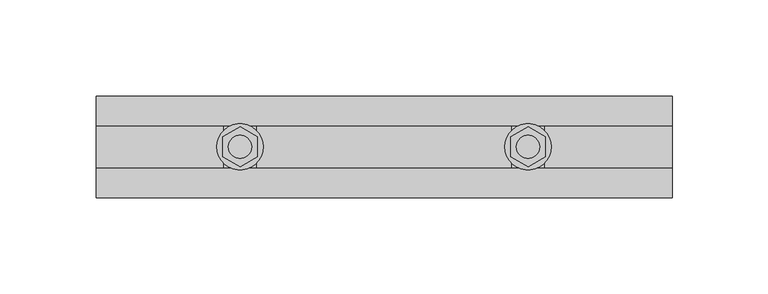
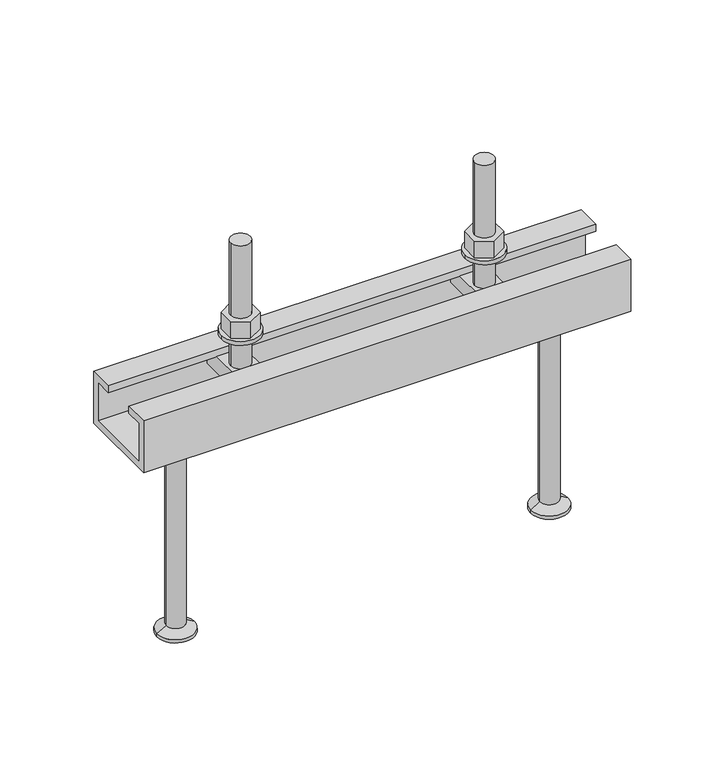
"""IFC4 building model written with IfcOpenShell, lengths in millimetres: fastener geometry, JTA-K JORDAHL® AnchorChannels : JTA-K L=300 mm."""

from ifc_helpers import new_model, si_unit, point, frame, frame_2d, origin, place, context, project, spatial, polyline, circle_curve, trimmed, segment, composite_curve, outline, extrude, source, transform, mapped, element, save
from ifc_brep_helpers import plane_surface, cylinder_surface, revolved_surface, advanced_brep


def fastener_9a6c4959(model_context):
    return source(origin(), model_context, "Body", "SolidModel", [
        extrude(outline(polyline([(225.0, -10.3923048), (216.0, -5.1961524), (216.0, 5.1961524), (225.0, 10.3923048), (234.0, 5.1961524), (234.0, -5.1961524), (225.0, -10.3923048)]), holes=[composite_curve([segment(trimmed(circle_curve(frame_2d((225.0, 0.0)), 6.0), [point((219.0, 0.0))], [point((231.0, 0.0))], True, "CARTESIAN"), True, "CONTINUOUS"), segment(trimmed(circle_curve(frame_2d((225.0, 0.0)), 6.0), [point((231.0, 0.0))], [point((219.0, 0.0))], True, "CARTESIAN"), True, "CONTINUOUS")], self_intersect=False)]), frame((0.0, 0.0, 17.5), z_axis=(0.0, 0.0, 1.0), x_axis=(1.0, 0.0, 0.0)), (0.0, 0.0, 1.0), 10.8),
        extrude(outline(composite_curve([segment(trimmed(circle_curve(frame_2d((225.0, 0.0)), 12.0), [point((213.0, 0.0))], [point((237.0, 0.0))], False, "CARTESIAN"), True, "CONTINUOUS"), segment(trimmed(circle_curve(frame_2d((225.0, 0.0)), 12.0), [point((237.0, 0.0))], [point((213.0, 0.0))], False, "CARTESIAN"), True, "CONTINUOUS")], self_intersect=False), holes=[composite_curve([segment(trimmed(circle_curve(frame_2d((225.0, 0.0)), 6.5), [point((218.5, 0.0))], [point((231.5, 0.0))], True, "CARTESIAN"), True, "CONTINUOUS"), segment(trimmed(circle_curve(frame_2d((225.0, 0.0)), 6.5), [point((231.5, 0.0))], [point((218.5, 0.0))], True, "CARTESIAN"), True, "CONTINUOUS")], self_intersect=False)]), frame((0.0, 0.0, 15.0), z_axis=(0.0, 0.0, 1.0), x_axis=(1.0, 0.0, 0.0)), (0.0, 0.0, 1.0), 2.5),
        extrude(outline(polyline([(75.0, -10.3923048), (66.0, -5.1961524), (66.0, 5.1961524), (75.0, 10.3923048), (84.0, 5.1961524), (84.0, -5.1961524), (75.0, -10.3923048)]), holes=[composite_curve([segment(trimmed(circle_curve(frame_2d((75.0, 0.0)), 6.0), [point((69.0, 0.0))], [point((81.0, 0.0))], True, "CARTESIAN"), True, "CONTINUOUS"), segment(trimmed(circle_curve(frame_2d((75.0, 0.0)), 6.0), [point((81.0, 0.0))], [point((69.0, 0.0))], True, "CARTESIAN"), True, "CONTINUOUS")], self_intersect=False)]), frame((0.0, 0.0, 17.5), z_axis=(0.0, 0.0, 1.0), x_axis=(1.0, 0.0, 0.0)), (0.0, 0.0, 1.0), 10.8),
        extrude(outline(composite_curve([segment(trimmed(circle_curve(frame_2d((75.0, 0.0)), 12.0), [point((63.0, 0.0))], [point((87.0, 0.0))], False, "CARTESIAN"), True, "CONTINUOUS"), segment(trimmed(circle_curve(frame_2d((75.0, 0.0)), 12.0), [point((87.0, 0.0))], [point((63.0, 0.0))], False, "CARTESIAN"), True, "CONTINUOUS")], self_intersect=False), holes=[composite_curve([segment(trimmed(circle_curve(frame_2d((75.0, 0.0)), 6.5), [point((68.5, 0.0))], [point((81.5, 0.0))], True, "CARTESIAN"), True, "CONTINUOUS"), segment(trimmed(circle_curve(frame_2d((75.0, 0.0)), 6.5), [point((81.5, 0.0))], [point((68.5, 0.0))], True, "CARTESIAN"), True, "CONTINUOUS")], self_intersect=False)]), frame((0.0, 0.0, 15.0), z_axis=(0.0, 0.0, 1.0), x_axis=(1.0, 0.0, 0.0)), (0.0, 0.0, 1.0), 2.5),
        advanced_brep(
        [(233.5, -20.7, -4.5), (233.5, -20.7, -14.5), (233.5, 20.7, -14.5), (233.5, 20.7, -4.5), (216.5, -20.7, -4.5), (216.5, 20.7, -4.5), (216.5, 20.7, -14.5), (216.5, -20.7, -14.5), (231.0, 0.0, -4.5), (219.0, 0.0, -4.5), (219.0, 0.0, 75.5), (231.0, 0.0, 75.5)],
        [
            (0, 1),
            (1, 2),
            (2, 3),
            (3, 0),
            (4, 5),
            (5, 6),
            (6, 7),
            (7, 4),
            (3, 5),
            (4, 0),
            (8, 9, circle_curve(frame((225.0, 0.0, -4.5), z_axis=(0.0, 0.0, -1.0), x_axis=(1.0, 0.0, 0.0)), 6.0)),
            (9, 8, circle_curve(frame((225.0, 0.0, -4.5), z_axis=(0.0, 0.0, -1.0), x_axis=(1.0, 0.0, 0.0)), 6.0)),
            (2, 6),
            (1, 7),
            (10, 11, circle_curve(frame((225.0, 0.0, 75.5), z_axis=(0.0, 0.0, 1.0), x_axis=(1.0, 0.0, 0.0)), 6.0)),
            (11, 10, circle_curve(frame((225.0, 0.0, 75.5), z_axis=(0.0, 0.0, 1.0), x_axis=(1.0, 0.0, 0.0)), 6.0)),
            (11, 8),
            (9, 10),
        ],
        [
            plane_surface(frame((233.5, 20.7, -4.5), z_axis=(1.0, 0.0, 0.0), x_axis=(0.0, 1.0, 0.0))),
            plane_surface(frame((216.5, 20.7, -4.5), z_axis=(-1.0, 0.0, 0.0), x_axis=(0.0, -1.0, 0.0))),
            plane_surface(frame((233.5, -20.7, -4.5), z_axis=(0.0, 0.0, 1.0), x_axis=(-1.0, 0.0, 0.0))),
            plane_surface(frame((233.5, 20.7, -4.5), z_axis=(0.0, 1.0, 0.0), x_axis=(-1.0, 0.0, 0.0))),
            plane_surface(frame((233.5, 20.7, -14.5), z_axis=(0.0, 0.0, -1.0), x_axis=(-1.0, 0.0, 0.0))),
            plane_surface(frame((233.5, -20.7, -14.5), z_axis=(0.0, -1.0, 0.0), x_axis=(-1.0, 0.0, 0.0))),
            plane_surface(frame((231.0, 0.0, 75.5), z_axis=(0.0, 0.0, 1.0), x_axis=(0.0, -1.0, 0.0))),
            cylinder_surface(frame((225.0, 0.0, -4.5), z_axis=(0.0, 0.0, 1.0), x_axis=(1.0, 0.0, 0.0)), 6.0),
        ],
        [
            (0, [[1, 2, 3, 4]]),
            (1, [[5, 6, 7, 8]]),
            (2, [[9, -5, 10, -4], [11, 12]]),
            (3, [[13, -6, -9, -3]]),
            (4, [[14, -7, -13, -2]]),
            (5, [[-10, -8, -14, -1]]),
            (6, [[15, 16]]),
            (7, [[17, -12, 18, -16]]),
            (7, [[-18, -11, -17, -15]]),
        ],
    ),
        advanced_brep(
        [(83.5, -20.7, -4.5), (83.5, -20.7, -14.5), (83.5, 20.7, -14.5), (83.5, 20.7, -4.5), (66.5, -20.7, -4.5), (66.5, 20.7, -4.5), (66.5, 20.7, -14.5), (66.5, -20.7, -14.5), (81.0, 0.0, -4.5), (69.0, 0.0, -4.5), (69.0, 0.0, 75.5), (81.0, 0.0, 75.5)],
        [
            (0, 1),
            (1, 2),
            (2, 3),
            (3, 0),
            (4, 5),
            (5, 6),
            (6, 7),
            (7, 4),
            (3, 5),
            (4, 0),
            (8, 9, circle_curve(frame((75.0, 0.0, -4.5), z_axis=(0.0, 0.0, -1.0), x_axis=(1.0, 0.0, 0.0)), 6.0)),
            (9, 8, circle_curve(frame((75.0, 0.0, -4.5), z_axis=(0.0, 0.0, -1.0), x_axis=(1.0, 0.0, 0.0)), 6.0)),
            (2, 6),
            (1, 7),
            (10, 11, circle_curve(frame((75.0, 0.0, 75.5), z_axis=(0.0, 0.0, 1.0), x_axis=(1.0, 0.0, 0.0)), 6.0)),
            (11, 10, circle_curve(frame((75.0, 0.0, 75.5), z_axis=(0.0, 0.0, 1.0), x_axis=(1.0, 0.0, 0.0)), 6.0)),
            (11, 8),
            (9, 10),
        ],
        [
            plane_surface(frame((83.5, 20.7, -4.5), z_axis=(1.0, 0.0, 0.0), x_axis=(0.0, 1.0, 0.0))),
            plane_surface(frame((66.5, 20.7, -4.5), z_axis=(-1.0, 0.0, 0.0), x_axis=(0.0, -1.0, 0.0))),
            plane_surface(frame((83.5, -20.7, -4.5), z_axis=(0.0, 0.0, 1.0), x_axis=(-1.0, 0.0, 0.0))),
            plane_surface(frame((83.5, 20.7, -4.5), z_axis=(0.0, 1.0, 0.0), x_axis=(-1.0, 0.0, 0.0))),
            plane_surface(frame((83.5, 20.7, -14.5), z_axis=(0.0, 0.0, -1.0), x_axis=(-1.0, 0.0, 0.0))),
            plane_surface(frame((83.5, -20.7, -14.5), z_axis=(0.0, -1.0, 0.0), x_axis=(-1.0, 0.0, 0.0))),
            plane_surface(frame((81.0, 0.0, 75.5), z_axis=(0.0, 0.0, 1.0), x_axis=(0.0, -1.0, 0.0))),
            cylinder_surface(frame((75.0, 0.0, -4.5), z_axis=(0.0, 0.0, 1.0), x_axis=(1.0, 0.0, 0.0)), 6.0),
        ],
        [
            (0, [[1, 2, 3, 4]]),
            (1, [[5, 6, 7, 8]]),
            (2, [[9, -5, 10, -4], [11, 12]]),
            (3, [[13, -6, -9, -3]]),
            (4, [[14, -7, -13, -2]]),
            (5, [[-10, -8, -14, -1]]),
            (6, [[15, 16]]),
            (7, [[17, -12, 18, -16]]),
            (7, [[-18, -11, -17, -15]]),
        ],
    ),
        advanced_brep(
        [(265.0, 0.0, -34.0), (247.5, 0.0, -34.0), (282.5, 0.0, -34.0), (253.5, 0.0, -165.0), (265.0, 0.0, -165.0), (276.5, 0.0, -165.0), (253.5, 0.0, -163.0), (276.5, 0.0, -163.0), (259.2, 0.0, -159.7091035), (270.8, 0.0, -159.7091035), (259.2, 0.0, -37.0), (270.8, 0.0, -37.0)],
        [
            (0, 1),
            (1, 2, circle_curve(frame((265.0, 0.0, -34.0), z_axis=(0.0, 0.0, 1.0), x_axis=(1.0, 0.0, 0.0)), 17.5)),
            (2, 0),
            (2, 1, circle_curve(frame((265.0, 0.0, -34.0), z_axis=(0.0, 0.0, 1.0), x_axis=(1.0, 0.0, 0.0)), 17.5)),
            (3, 4),
            (4, 5),
            (5, 3, circle_curve(frame((265.0, 0.0, -165.0), z_axis=(0.0, 0.0, -1.0), x_axis=(1.0, 0.0, 0.0)), 11.5)),
            (3, 5, circle_curve(frame((265.0, 0.0, -165.0), z_axis=(0.0, 0.0, -1.0), x_axis=(1.0, 0.0, 0.0)), 11.5)),
            (6, 3),
            (5, 7),
            (7, 6, circle_curve(frame((265.0, 0.0, -163.0), z_axis=(0.0, 0.0, -1.0), x_axis=(1.0, 0.0, 0.0)), 11.5)),
            (6, 7, circle_curve(frame((265.0, 0.0, -163.0), z_axis=(0.0, 0.0, -1.0), x_axis=(1.0, 0.0, 0.0)), 11.5)),
            (8, 6),
            (7, 9),
            (9, 8, circle_curve(frame((265.0, 0.0, -159.7091035), z_axis=(0.0, 0.0, -1.0), x_axis=(1.0, 0.0, 0.0)), 5.8)),
            (8, 9, circle_curve(frame((265.0, 0.0, -159.7091035), z_axis=(0.0, 0.0, -1.0), x_axis=(1.0, 0.0, 0.0)), 5.8)),
            (10, 8),
            (9, 11),
            (11, 10, circle_curve(frame((265.0, 0.0, -37.0), z_axis=(0.0, 0.0, -1.0), x_axis=(1.0, 0.0, 0.0)), 5.8)),
            (10, 11, circle_curve(frame((265.0, 0.0, -37.0), z_axis=(0.0, 0.0, -1.0), x_axis=(1.0, 0.0, 0.0)), 5.8)),
            (1, 10),
            (11, 2),
        ],
        [
            plane_surface(frame((265.0, 0.0, -34.0), z_axis=(0.0, 0.0, 1.0), x_axis=(1.0, 0.0, 0.0))),
            plane_surface(frame((265.0, 0.0, -165.0), z_axis=(0.0, 0.0, -1.0), x_axis=(1.0, 0.0, 0.0))),
            cylinder_surface(frame((265.0, 0.0, 2345.3150031), z_axis=(0.0, 0.0, 1.0), x_axis=(1.0, 0.0, 0.0)), 11.5),
            revolved_surface(polyline([(276.5, 0.0, -163.0), (270.8, 0.0, -159.7091035)]), (265.0, 0.0, 2345.3150031), (0.0, 0.0, 1.0)),
            cylinder_surface(frame((265.0, 0.0, 2345.3150031), z_axis=(0.0, 0.0, 1.0), x_axis=(1.0, 0.0, 0.0)), 5.8),
            revolved_surface(polyline([(270.8, 0.0, -37.0), (282.5, 0.0, -34.0)]), (265.0, 0.0, 2345.3150031), (0.0, 0.0, 1.0)),
        ],
        [
            (0, [[1, 2, 3]]),
            (0, [[-3, 4, -1]]),
            (1, [[5, 6, 7]]),
            (1, [[-6, -5, 8]]),
            (2, [[9, -7, 10, 11]]),
            (2, [[-10, -8, -9, 12]]),
            (3, [[13, -11, 14, 15]]),
            (3, [[-14, -12, -13, 16]]),
            (4, [[17, -15, 18, 19]]),
            (4, [[-18, -16, -17, 20]]),
            (5, [[21, -19, 22, -2]]),
            (5, [[-22, -20, -21, -4]]),
        ],
    ),
        advanced_brep(
        [(35.0, 0.0, -34.0), (17.5, 0.0, -34.0), (52.5, 0.0, -34.0), (23.5, 0.0, -165.0), (35.0, 0.0, -165.0), (46.5, 0.0, -165.0), (23.5, 0.0, -163.0), (46.5, 0.0, -163.0), (29.2, 0.0, -159.7091035), (40.8, 0.0, -159.7091035), (29.2, 0.0, -37.0), (40.8, 0.0, -37.0)],
        [
            (0, 1),
            (1, 2, circle_curve(frame((35.0, 0.0, -34.0), z_axis=(0.0, 0.0, 1.0), x_axis=(1.0, 0.0, 0.0)), 17.5)),
            (2, 0),
            (2, 1, circle_curve(frame((35.0, 0.0, -34.0), z_axis=(0.0, 0.0, 1.0), x_axis=(1.0, 0.0, 0.0)), 17.5)),
            (3, 4),
            (4, 5),
            (5, 3, circle_curve(frame((35.0, 0.0, -165.0), z_axis=(0.0, 0.0, -1.0), x_axis=(1.0, 0.0, 0.0)), 11.5)),
            (3, 5, circle_curve(frame((35.0, 0.0, -165.0), z_axis=(0.0, 0.0, -1.0), x_axis=(1.0, 0.0, 0.0)), 11.5)),
            (6, 3),
            (5, 7),
            (7, 6, circle_curve(frame((35.0, 0.0, -163.0), z_axis=(0.0, 0.0, -1.0), x_axis=(1.0, 0.0, 0.0)), 11.5)),
            (6, 7, circle_curve(frame((35.0, 0.0, -163.0), z_axis=(0.0, 0.0, -1.0), x_axis=(1.0, 0.0, 0.0)), 11.5)),
            (8, 6),
            (7, 9),
            (9, 8, circle_curve(frame((35.0, 0.0, -159.7091035), z_axis=(0.0, 0.0, -1.0), x_axis=(1.0, 0.0, 0.0)), 5.8)),
            (8, 9, circle_curve(frame((35.0, 0.0, -159.7091035), z_axis=(0.0, 0.0, -1.0), x_axis=(1.0, 0.0, 0.0)), 5.8)),
            (10, 8),
            (9, 11),
            (11, 10, circle_curve(frame((35.0, 0.0, -37.0), z_axis=(0.0, 0.0, -1.0), x_axis=(1.0, 0.0, 0.0)), 5.8)),
            (10, 11, circle_curve(frame((35.0, 0.0, -37.0), z_axis=(0.0, 0.0, -1.0), x_axis=(1.0, 0.0, 0.0)), 5.8)),
            (1, 10),
            (11, 2),
        ],
        [
            plane_surface(frame((35.0, 0.0, -34.0), z_axis=(0.0, 0.0, 1.0), x_axis=(1.0, 0.0, 0.0))),
            plane_surface(frame((35.0, 0.0, -165.0), z_axis=(0.0, 0.0, -1.0), x_axis=(1.0, 0.0, 0.0))),
            cylinder_surface(frame((35.0, 0.0, 2345.3150031), z_axis=(0.0, 0.0, 1.0), x_axis=(1.0, 0.0, 0.0)), 11.5),
            revolved_surface(polyline([(46.5, 0.0, -163.0), (40.8, 0.0, -159.7091035)]), (35.0, 0.0, 2345.3150031), (0.0, 0.0, 1.0)),
            cylinder_surface(frame((35.0, 0.0, 2345.3150031), z_axis=(0.0, 0.0, 1.0), x_axis=(1.0, 0.0, 0.0)), 5.8),
            revolved_surface(polyline([(40.8, 0.0, -37.0), (52.5, 0.0, -34.0)]), (35.0, 0.0, 2345.3150031), (0.0, 0.0, 1.0)),
        ],
        [
            (0, [[1, 2, 3]]),
            (0, [[-3, 4, -1]]),
            (1, [[5, 6, 7]]),
            (1, [[-6, -5, 8]]),
            (2, [[9, -7, 10, 11]]),
            (2, [[-10, -8, -9, 12]]),
            (3, [[13, -11, 14, 15]]),
            (3, [[-14, -12, -13, 16]]),
            (4, [[17, -15, 18, 19]]),
            (4, [[-18, -16, -17, 20]]),
            (5, [[21, -19, 22, -2]]),
            (5, [[-22, -20, -21, -4]]),
        ],
    ),
        extrude(outline(polyline([(-26.5, 0.0), (-11.0, 0.0), (-11.0, -4.5), (-22.0, -4.5), (-22.0, -29.5), (22.0, -29.5), (22.0, -4.5), (11.0, -4.5), (11.0, 0.0), (26.5, 0.0), (26.5, -34.0), (-26.5, -34.0), (-26.5, 0.0)])), frame((0.0, 0.0, 0.0), z_axis=(1.0, 0.0, 0.0), x_axis=(0.0, 1.0, 0.0)), (0.0, 0.0, 1.0), 300.0),
    ])


if __name__ == "__main__":
    model = new_model("IFC4")
    model_context = context("Model", 3, world=origin())
    ifc_project = project(units=[si_unit("LENGTHUNIT", "METRE", prefix="MILLI")], contexts=[model_context])
    site = spatial("IfcSite", under=ifc_project)
    building = spatial("IfcBuilding", under=site)
    placement = place(None, origin())
    fastener_shape = fastener_9a6c4959(model_context)
    element("IfcFastener", 1, ObjectType="JTA-K JORDAHL® AnchorChannels : JTA-K L=300 mm", at=placement, inside=building, context=model_context, shape_type="MappedRepresentation", body=[
        mapped(fastener_shape, transform((0.0, 0.0, 0.0), x_axis=(1.0, 0.0, 0.0), y_axis=(0.0, 1.0, 0.0), z_axis=(0.0, 0.0, 1.0))),
    ])
    save(model, "model.ifc")
